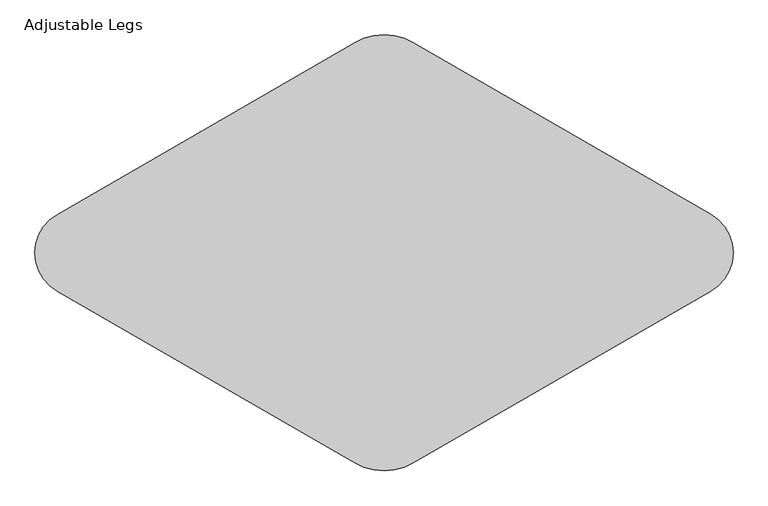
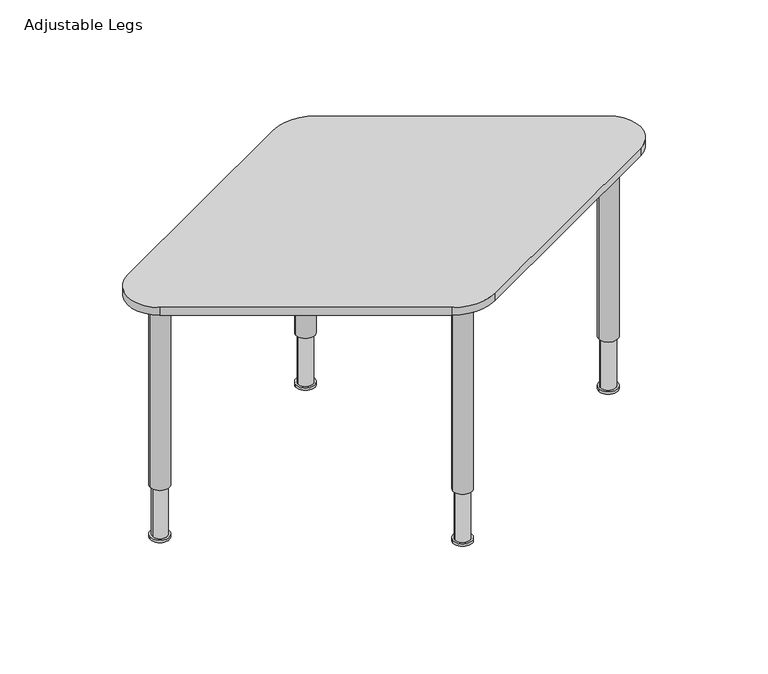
"""IFC4 building model written with IfcOpenShell, lengths in millimetres: furniture geometry, Salmiakki : Adjustable Legs."""

from ifc_helpers import new_model, si_unit, point, frame, frame_2d, origin, place, context, project, spatial, polyline, circle_curve, trimmed, segment, composite_curve, outline, extrude, source, transform, mapped, element, save
from ifc_brep_helpers import plane_surface, cylinder_surface, advanced_brep


def adjustable_legs_f4bd4072(model_context):
    return source(origin(), model_context, "Body", "SolidModel", [
        advanced_brep(
        [(-26.0001485, -369.94205, 698.0), (25.9998515, -369.94205, 698.0), (-26.0001485, -369.94205, 0.0), (25.9998515, -369.94205, 0.0), (-26.0001485, -369.94205, 150.0), (25.9998515, -369.94205, 150.0), (25.9998515, -369.94205, 6.8222009), (-26.0001485, -369.94205, 6.8222009), (19.9998515, -369.94205, 150.0), (-20.0001485, -369.94205, 150.0), (19.9998515, -369.94205, 6.8222009), (-20.0001485, -369.94205, 6.8222009)],
        [
            (0, 1, circle_curve(frame((-0.0001485, -369.94205, 698.0), z_axis=(0.0, 0.0, 1.0), x_axis=(1.0, 0.0, 0.0)), 26.0)),
            (1, 0, circle_curve(frame((-0.0001485, -369.94205, 698.0), z_axis=(0.0, 0.0, 1.0), x_axis=(1.0, 0.0, 0.0)), 26.0)),
            (2, 3, circle_curve(frame((-0.0001485, -369.94205, 0.0), z_axis=(0.0, 0.0, -1.0), x_axis=(1.0, 0.0, 0.0)), 26.0)),
            (3, 2, circle_curve(frame((-0.0001485, -369.94205, 0.0), z_axis=(0.0, 0.0, -1.0), x_axis=(1.0, 0.0, 0.0)), 26.0)),
            (0, 4),
            (4, 5, circle_curve(frame((-0.0001485, -369.94205, 150.0), z_axis=(0.0, 0.0, 1.0), x_axis=(1.0, 0.0, 0.0)), 26.0)),
            (5, 1),
            (3, 6),
            (6, 7, circle_curve(frame((-0.0001485, -369.94205, 6.8222009), z_axis=(0.0, 0.0, -1.0), x_axis=(1.0, 0.0, 0.0)), 26.0)),
            (7, 2),
            (5, 4, circle_curve(frame((-0.0001485, -369.94205, 150.0), z_axis=(0.0, 0.0, 1.0), x_axis=(1.0, 0.0, 0.0)), 26.0)),
            (7, 6, circle_curve(frame((-0.0001485, -369.94205, 6.8222009), z_axis=(0.0, 0.0, -1.0), x_axis=(1.0, 0.0, 0.0)), 26.0)),
            (8, 9, circle_curve(frame((-0.0001485, -369.94205, 150.0), z_axis=(0.0, 0.0, 1.0), x_axis=(-1.0, 0.0, 0.0)), 20.0)),
            (9, 8, circle_curve(frame((-0.0001485, -369.94205, 150.0), z_axis=(0.0, 0.0, 1.0), x_axis=(-1.0, 0.0, 0.0)), 20.0)),
            (10, 11, circle_curve(frame((-0.0001485, -369.94205, 6.8222009), z_axis=(0.0, 0.0, -1.0), x_axis=(-1.0, 0.0, 0.0)), 20.0)),
            (11, 10, circle_curve(frame((-0.0001485, -369.94205, 6.8222009), z_axis=(0.0, 0.0, -1.0), x_axis=(-1.0, 0.0, 0.0)), 20.0)),
            (9, 11),
            (10, 8),
        ],
        [
            plane_surface(frame((25.9998515, -369.94205, 698.0), z_axis=(0.0, 0.0, 1.0), x_axis=(0.0, 1.0, 0.0))),
            plane_surface(frame((25.9998515, -369.94205, 0.0), z_axis=(0.0, 0.0, -1.0), x_axis=(0.0, -1.0, 0.0))),
            cylinder_surface(frame((-0.0001485, -369.94205, 0.0), z_axis=(0.0, 0.0, 1.0), x_axis=(1.0, 0.0, 0.0)), 26.0),
            plane_surface(frame((-20.0001485, -369.94205, 150.0), z_axis=(0.0, 0.0, -1.0), x_axis=(0.0, 1.0, 0.0))),
            plane_surface(frame((-20.0001485, -369.94205, 6.8222009), z_axis=(0.0, 0.0, 1.0), x_axis=(0.0, -1.0, 0.0))),
            cylinder_surface(frame((-0.0001485, -369.94205, 6.8222009), z_axis=(0.0, 0.0, -1.0), x_axis=(-1.0, 0.0, 0.0)), 20.0),
        ],
        [
            (0, [[1, 2]]),
            (1, [[3, 4]]),
            (2, [[-1, 5, 6, 7]]),
            (2, [[-4, 8, 9, 10]]),
            (2, [[-2, -7, 11, -5]]),
            (2, [[-3, -10, 12, -8]]),
            (3, [[-6, -11], [13, 14]]),
            (4, [[-9, -12], [15, 16]]),
            (5, [[-14, 17, -15, 18]]),
            (5, [[-13, -18, -16, -17]]),
        ],
    ),
        advanced_brep(
        [(-26.0001485, 370.05795, 698.0), (25.9998515, 370.05795, 698.0), (-26.0001485, 370.05795, 0.0), (25.9998515, 370.05795, 0.0), (-26.0001485, 370.05795, 150.0), (25.9998515, 370.05795, 150.0), (25.9998515, 370.05795, 6.8222009), (-26.0001485, 370.05795, 6.8222009), (19.9998515, 370.05795, 150.0), (-20.0001485, 370.05795, 150.0), (19.9998515, 370.05795, 6.8222009), (-20.0001485, 370.05795, 6.8222009)],
        [
            (0, 1, circle_curve(frame((-0.0001485, 370.05795, 698.0), z_axis=(0.0, 0.0, 1.0), x_axis=(1.0, 0.0, 0.0)), 26.0)),
            (1, 0, circle_curve(frame((-0.0001485, 370.05795, 698.0), z_axis=(0.0, 0.0, 1.0), x_axis=(1.0, 0.0, 0.0)), 26.0)),
            (2, 3, circle_curve(frame((-0.0001485, 370.05795, 0.0), z_axis=(0.0, 0.0, -1.0), x_axis=(1.0, 0.0, 0.0)), 26.0)),
            (3, 2, circle_curve(frame((-0.0001485, 370.05795, 0.0), z_axis=(0.0, 0.0, -1.0), x_axis=(1.0, 0.0, 0.0)), 26.0)),
            (0, 4),
            (4, 5, circle_curve(frame((-0.0001485, 370.05795, 150.0), z_axis=(0.0, 0.0, 1.0), x_axis=(1.0, 0.0, 0.0)), 26.0)),
            (5, 1),
            (3, 6),
            (6, 7, circle_curve(frame((-0.0001485, 370.05795, 6.8222009), z_axis=(0.0, 0.0, -1.0), x_axis=(1.0, 0.0, 0.0)), 26.0)),
            (7, 2),
            (5, 4, circle_curve(frame((-0.0001485, 370.05795, 150.0), z_axis=(0.0, 0.0, 1.0), x_axis=(1.0, 0.0, 0.0)), 26.0)),
            (7, 6, circle_curve(frame((-0.0001485, 370.05795, 6.8222009), z_axis=(0.0, 0.0, -1.0), x_axis=(1.0, 0.0, 0.0)), 26.0)),
            (8, 9, circle_curve(frame((-0.0001485, 370.05795, 150.0), z_axis=(0.0, 0.0, 1.0), x_axis=(-1.0, 0.0, 0.0)), 20.0)),
            (9, 8, circle_curve(frame((-0.0001485, 370.05795, 150.0), z_axis=(0.0, 0.0, 1.0), x_axis=(-1.0, 0.0, 0.0)), 20.0)),
            (10, 11, circle_curve(frame((-0.0001485, 370.05795, 6.8222009), z_axis=(0.0, 0.0, -1.0), x_axis=(-1.0, 0.0, 0.0)), 20.0)),
            (11, 10, circle_curve(frame((-0.0001485, 370.05795, 6.8222009), z_axis=(0.0, 0.0, -1.0), x_axis=(-1.0, 0.0, 0.0)), 20.0)),
            (9, 11),
            (10, 8),
        ],
        [
            plane_surface(frame((25.9998515, 370.05795, 698.0), z_axis=(0.0, 0.0, 1.0), x_axis=(0.0, 1.0, 0.0))),
            plane_surface(frame((25.9998515, 370.05795, 0.0), z_axis=(0.0, 0.0, -1.0), x_axis=(0.0, -1.0, 0.0))),
            cylinder_surface(frame((-0.0001485, 370.05795, 0.0), z_axis=(0.0, 0.0, 1.0), x_axis=(1.0, 0.0, 0.0)), 26.0),
            plane_surface(frame((-20.0001485, 370.05795, 150.0), z_axis=(0.0, 0.0, -1.0), x_axis=(0.0, 1.0, 0.0))),
            plane_surface(frame((-20.0001485, 370.05795, 6.8222009), z_axis=(0.0, 0.0, 1.0), x_axis=(0.0, -1.0, 0.0))),
            cylinder_surface(frame((-0.0001485, 370.05795, 6.8222009), z_axis=(0.0, 0.0, -1.0), x_axis=(-1.0, 0.0, 0.0)), 20.0),
        ],
        [
            (0, [[1, 2]]),
            (1, [[3, 4]]),
            (2, [[-1, 5, 6, 7]]),
            (2, [[-4, 8, 9, 10]]),
            (2, [[-2, -7, 11, -5]]),
            (2, [[-3, -10, 12, -8]]),
            (3, [[-6, -11], [13, 14]]),
            (4, [[-9, -12], [15, 16]]),
            (5, [[-14, 17, -15, 18]]),
            (5, [[-13, -18, -16, -17]]),
        ],
    ),
        advanced_brep(
        [(583.6242438, 0.05795, 698.0), (635.6242438, 0.05795, 698.0), (583.6242438, 0.05795, 0.0), (635.6242438, 0.05795, 0.0), (583.6242438, 0.05795, 150.0), (635.6242438, 0.05795, 150.0), (635.6242438, 0.05795, 6.8222009), (583.6242438, 0.05795, 6.8222009), (629.6242438, 0.05795, 150.0), (589.6242438, 0.05795, 150.0), (629.6242438, 0.05795, 6.8222009), (589.6242438, 0.05795, 6.8222009)],
        [
            (0, 1, circle_curve(frame((609.6242438, 0.05795, 698.0), z_axis=(0.0, 0.0, 1.0), x_axis=(1.0, 0.0, 0.0)), 26.0)),
            (1, 0, circle_curve(frame((609.6242438, 0.05795, 698.0), z_axis=(0.0, 0.0, 1.0), x_axis=(1.0, 0.0, 0.0)), 26.0)),
            (2, 3, circle_curve(frame((609.6242438, 0.05795, 0.0), z_axis=(0.0, 0.0, -1.0), x_axis=(1.0, 0.0, 0.0)), 26.0)),
            (3, 2, circle_curve(frame((609.6242438, 0.05795, 0.0), z_axis=(0.0, 0.0, -1.0), x_axis=(1.0, 0.0, 0.0)), 26.0)),
            (0, 4),
            (4, 5, circle_curve(frame((609.6242438, 0.05795, 150.0), z_axis=(0.0, 0.0, 1.0), x_axis=(1.0, 0.0, 0.0)), 26.0)),
            (5, 1),
            (3, 6),
            (6, 7, circle_curve(frame((609.6242438, 0.05795, 6.8222009), z_axis=(0.0, 0.0, -1.0), x_axis=(1.0, 0.0, 0.0)), 26.0)),
            (7, 2),
            (5, 4, circle_curve(frame((609.6242438, 0.05795, 150.0), z_axis=(0.0, 0.0, 1.0), x_axis=(1.0, 0.0, 0.0)), 26.0)),
            (7, 6, circle_curve(frame((609.6242438, 0.05795, 6.8222009), z_axis=(0.0, 0.0, -1.0), x_axis=(1.0, 0.0, 0.0)), 26.0)),
            (8, 9, circle_curve(frame((609.6242438, 0.05795, 150.0), z_axis=(0.0, 0.0, 1.0), x_axis=(-1.0, 0.0, 0.0)), 20.0)),
            (9, 8, circle_curve(frame((609.6242438, 0.05795, 150.0), z_axis=(0.0, 0.0, 1.0), x_axis=(-1.0, 0.0, 0.0)), 20.0)),
            (10, 11, circle_curve(frame((609.6242438, 0.05795, 6.8222009), z_axis=(0.0, 0.0, -1.0), x_axis=(-1.0, 0.0, 0.0)), 20.0)),
            (11, 10, circle_curve(frame((609.6242438, 0.05795, 6.8222009), z_axis=(0.0, 0.0, -1.0), x_axis=(-1.0, 0.0, 0.0)), 20.0)),
            (9, 11),
            (10, 8),
        ],
        [
            plane_surface(frame((635.6242438, 0.05795, 698.0), z_axis=(0.0, 0.0, 1.0), x_axis=(0.0, 1.0, 0.0))),
            plane_surface(frame((635.6242438, 0.05795, 0.0), z_axis=(0.0, 0.0, -1.0), x_axis=(0.0, -1.0, 0.0))),
            cylinder_surface(frame((609.6242438, 0.05795, 0.0), z_axis=(0.0, 0.0, 1.0), x_axis=(1.0, 0.0, 0.0)), 26.0),
            plane_surface(frame((589.6242438, 0.05795, 150.0), z_axis=(0.0, 0.0, -1.0), x_axis=(0.0, 1.0, 0.0))),
            plane_surface(frame((589.6242438, 0.05795, 6.8222009), z_axis=(0.0, 0.0, 1.0), x_axis=(0.0, -1.0, 0.0))),
            cylinder_surface(frame((609.6242438, 0.05795, 6.8222009), z_axis=(0.0, 0.0, -1.0), x_axis=(-1.0, 0.0, 0.0)), 20.0),
        ],
        [
            (0, [[1, 2]]),
            (1, [[3, 4]]),
            (2, [[-1, 5, 6, 7]]),
            (2, [[-4, 8, 9, 10]]),
            (2, [[-2, -7, 11, -5]]),
            (2, [[-3, -10, 12, -8]]),
            (3, [[-6, -11], [13, 14]]),
            (4, [[-9, -12], [15, 16]]),
            (5, [[-14, 17, -15, 18]]),
            (5, [[-13, -18, -16, -17]]),
        ],
    ),
        advanced_brep(
        [(-635.8016163, 0.05795, 698.0), (-583.8016163, 0.05795, 698.0), (-635.8016163, 0.05795, 0.0), (-583.8016163, 0.05795, 0.0), (-635.8016163, 0.05795, 150.0), (-583.8016163, 0.05795, 150.0), (-583.8016163, 0.05795, 6.8222009), (-635.8016163, 0.05795, 6.8222009), (-589.8016163, 0.05795, 150.0), (-629.8016163, 0.05795, 150.0), (-589.8016163, 0.05795, 6.8222009), (-629.8016163, 0.05795, 6.8222009)],
        [
            (0, 1, circle_curve(frame((-609.8016163, 0.05795, 698.0), z_axis=(0.0, 0.0, 1.0), x_axis=(1.0, 0.0, 0.0)), 26.0)),
            (1, 0, circle_curve(frame((-609.8016163, 0.05795, 698.0), z_axis=(0.0, 0.0, 1.0), x_axis=(1.0, 0.0, 0.0)), 26.0)),
            (2, 3, circle_curve(frame((-609.8016163, 0.05795, 0.0), z_axis=(0.0, 0.0, -1.0), x_axis=(1.0, 0.0, 0.0)), 26.0)),
            (3, 2, circle_curve(frame((-609.8016163, 0.05795, 0.0), z_axis=(0.0, 0.0, -1.0), x_axis=(1.0, 0.0, 0.0)), 26.0)),
            (0, 4),
            (4, 5, circle_curve(frame((-609.8016163, 0.05795, 150.0), z_axis=(0.0, 0.0, 1.0), x_axis=(1.0, 0.0, 0.0)), 26.0)),
            (5, 1),
            (3, 6),
            (6, 7, circle_curve(frame((-609.8016163, 0.05795, 6.8222009), z_axis=(0.0, 0.0, -1.0), x_axis=(1.0, 0.0, 0.0)), 26.0)),
            (7, 2),
            (5, 4, circle_curve(frame((-609.8016163, 0.05795, 150.0), z_axis=(0.0, 0.0, 1.0), x_axis=(1.0, 0.0, 0.0)), 26.0)),
            (7, 6, circle_curve(frame((-609.8016163, 0.05795, 6.8222009), z_axis=(0.0, 0.0, -1.0), x_axis=(1.0, 0.0, 0.0)), 26.0)),
            (8, 9, circle_curve(frame((-609.8016163, 0.05795, 150.0), z_axis=(0.0, 0.0, 1.0), x_axis=(-1.0, 0.0, 0.0)), 20.0)),
            (9, 8, circle_curve(frame((-609.8016163, 0.05795, 150.0), z_axis=(0.0, 0.0, 1.0), x_axis=(-1.0, 0.0, 0.0)), 20.0)),
            (10, 11, circle_curve(frame((-609.8016163, 0.05795, 6.8222009), z_axis=(0.0, 0.0, -1.0), x_axis=(-1.0, 0.0, 0.0)), 20.0)),
            (11, 10, circle_curve(frame((-609.8016163, 0.05795, 6.8222009), z_axis=(0.0, 0.0, -1.0), x_axis=(-1.0, 0.0, 0.0)), 20.0)),
            (9, 11),
            (10, 8),
        ],
        [
            plane_surface(frame((-583.8016163, 0.05795, 698.0), z_axis=(0.0, 0.0, 1.0), x_axis=(0.0, 1.0, 0.0))),
            plane_surface(frame((-583.8016163, 0.05795, 0.0), z_axis=(0.0, 0.0, -1.0), x_axis=(0.0, -1.0, 0.0))),
            cylinder_surface(frame((-609.8016163, 0.05795, 0.0), z_axis=(0.0, 0.0, 1.0), x_axis=(1.0, 0.0, 0.0)), 26.0),
            plane_surface(frame((-629.8016163, 0.05795, 150.0), z_axis=(0.0, 0.0, -1.0), x_axis=(0.0, 1.0, 0.0))),
            plane_surface(frame((-629.8016163, 0.05795, 6.8222009), z_axis=(0.0, 0.0, 1.0), x_axis=(0.0, -1.0, 0.0))),
            cylinder_surface(frame((-609.8016163, 0.05795, 6.8222009), z_axis=(0.0, 0.0, -1.0), x_axis=(-1.0, 0.0, 0.0)), 20.0),
        ],
        [
            (0, [[1, 2]]),
            (1, [[3, 4]]),
            (2, [[-1, 5, 6, 7]]),
            (2, [[-4, 8, 9, 10]]),
            (2, [[-2, -7, 11, -5]]),
            (2, [[-3, -10, 12, -8]]),
            (3, [[-6, -11], [13, 14]]),
            (4, [[-9, -12], [15, 16]]),
            (5, [[-14, 17, -15, 18]]),
            (5, [[-13, -18, -16, -17]]),
        ],
    ),
        extrude(outline(composite_curve([segment(polyline([(-653.9945269, 76.5913393), (-58.6829066, 420.0855047)]), True, "CONTINUOUS"), segment(trimmed(circle_curve(frame_2d((-0.0001485, 318.4440975)), 117.3654198), [point((-58.6829066, 420.0855047))], [point((58.6825244, 420.0855539))], False, "CARTESIAN"), True, "CONTINUOUS"), segment(polyline([(58.6825244, 420.0855539), (653.8614125, 76.668687)]), True, "CONTINUOUS"), segment(trimmed(circle_curve(frame_2d((609.6242438, 0.0475988)), 88.4743932), [point((653.8614125, 76.668687))], [point((653.8614802, -76.5734503))], False, "CARTESIAN"), True, "CONTINUOUS"), segment(polyline([(653.8614802, -76.5734503), (58.7326395, -420.1716582)]), True, "CONTINUOUS"), segment(trimmed(circle_curve(frame_2d((0.0001346, -318.4440975)), 117.4649043), [point((58.7326395, -420.1716582))], [point((-58.7322748, -420.1717134))], False, "CARTESIAN"), True, "CONTINUOUS"), segment(polyline([(-58.7322748, -420.1717134), (-653.9944584, -76.4972658)]), True, "CONTINUOUS"), segment(trimmed(circle_curve(frame_2d((-609.8016163, 0.0470565)), 88.3857487), [point((-653.9944584, -76.4972658))], [point((-653.9945269, 76.5913393))], False, "CARTESIAN"), True, "CONTINUOUS")], self_intersect=False)), frame((0.0, 0.0, 698.1423426), z_axis=(0.0, 0.0, 1.0), x_axis=(1.0, 0.0, 0.0)), (0.0, 0.0, 1.0), 21.9999653),
    ])


if __name__ == "__main__":
    model = new_model("IFC4")
    model_context = context("Model", 3, world=origin())
    ifc_project = project(units=[si_unit("LENGTHUNIT", "METRE", prefix="MILLI")], contexts=[model_context])
    site = spatial("IfcSite", under=ifc_project)
    building = spatial("IfcBuilding", under=site)
    placement = place(None, origin())
    adjustable_legs_shape = adjustable_legs_f4bd4072(model_context)
    element("IfcFurniture", 1, ObjectType="Salmiakki : Adjustable Legs", at=placement, inside=building, context=model_context, shape_type="MappedRepresentation", body=[
        mapped(adjustable_legs_shape, transform((0.0, 0.0, 0.0), x_axis=(1.0, 0.0, 0.0), y_axis=(0.0, 1.0, 0.0), z_axis=(0.0, 0.0, 1.0))),
    ])
    save(model, "model.ifc")
